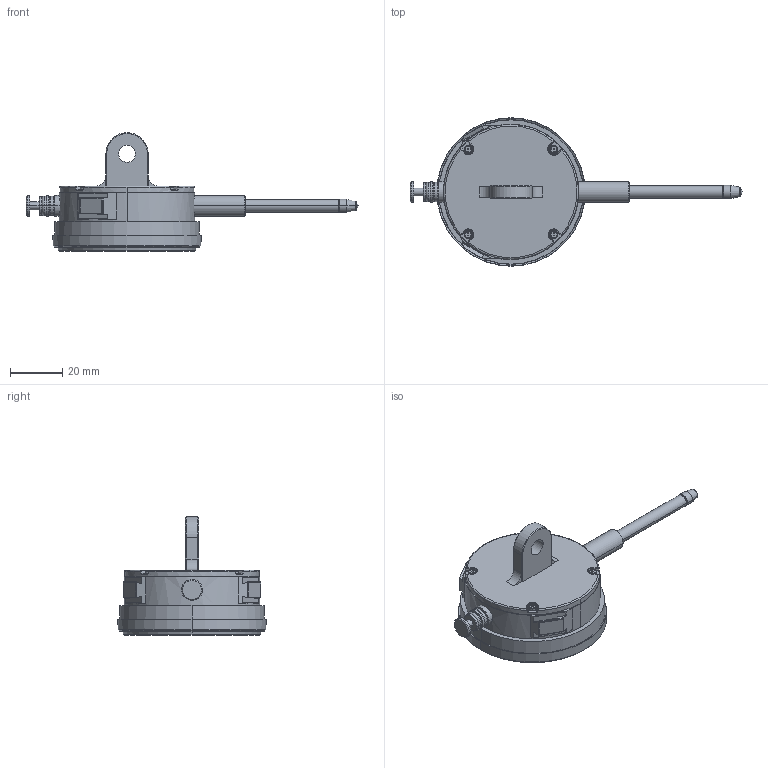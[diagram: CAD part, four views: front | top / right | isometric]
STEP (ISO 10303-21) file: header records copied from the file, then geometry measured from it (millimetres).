
FILE_DESCRIPTION(('Creo Elements/Direct Modeling STEP Export'),'2;1');
FILE_NAME('2052S.stp','2020-03-23T10:24:52',(''),(''),'Creo Elements/Direct Modeling STEP processor for AP214 (Solid Model)','Creo Elements/Direct Modeling 18.1I 13-Aug-2016 (C) Parametric Technology GmbH','');
FILE_SCHEMA(('AUTOMOTIVE_DESIGN { 1 0 10303 214 1 1 1 1 }'));
Length unit declared in the file: millimetre
Products named in the file (2): 2052S
Assembly tree (1 placements, depth 2):
  2052S
    2052S
Bounding box: 127.5 x 56.99 x 45.53 mm (x, y, z)
Volume: 60300.8 mm3; surface area: 11865.6 mm2
Topology: 1 solids, 1 shells, 320 faces, 770 edges, 475 vertices
Faces by surface type: plane 132, cylinder 84, cone 42, bspline 32, torus 28, sphere 2
Entity records: 14126 total; most frequent: CARTESIAN_POINT 7146, ORIENTED_EDGE 1536, DIRECTION 1320, EDGE_CURVE 768, VERTEX_POINT 475, AXIS2_PLACEMENT_3D 461, VECTOR 398, LINE 398
